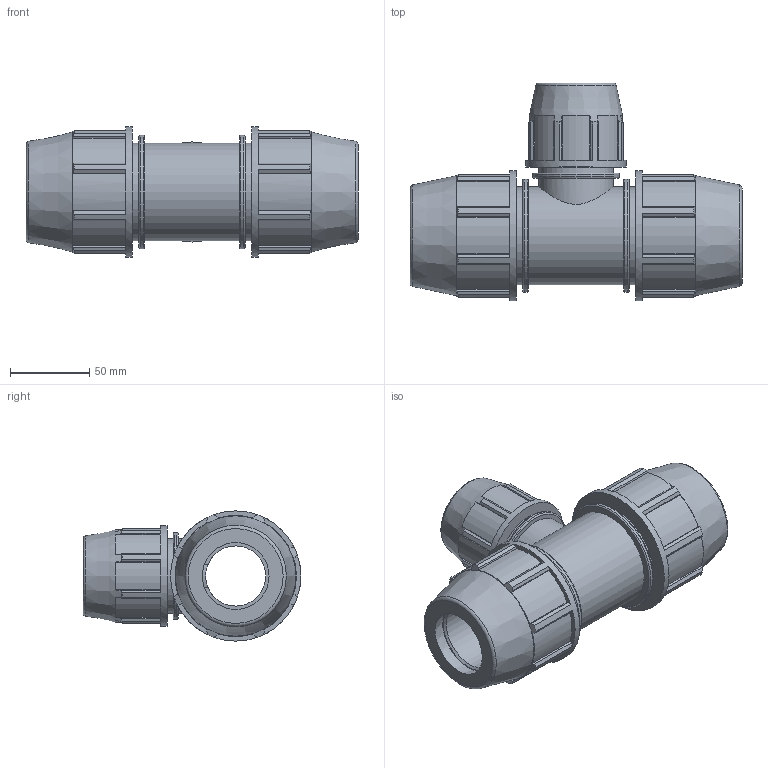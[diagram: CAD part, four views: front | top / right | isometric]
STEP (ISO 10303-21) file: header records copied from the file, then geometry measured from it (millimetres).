
FILE_DESCRIPTION(/* description */ ('PLASSON REDUCING TEE 1 1/4'''' - 1'''' - 1 1/4'''''),/* implementation_level */ '2;1');
FILE_NAME(/* name */ 'C:\Dropbox\KIMPROJECTS-Inventor 2019\99-16-3568-Processing Inch\ASTM Compression 2021\0734M0\0734M0013010.ipt.stp',/* time_stamp */ '2021-08-26T12:33:55+03:00',/* author */ ('Кирилл'),/* organization */ (''),/* preprocessor_version */ 'ST-DEVELOPER v17.2',/* originating_system */ 'Autodesk Inventor 2019',/* authorisation */ '');
FILE_SCHEMA (('AUTOMOTIVE_DESIGN { 1 0 10303 214 3 1 1 }'));
Length unit declared in the file: inch
Products named in the file (1): 0734M0013010
Bounding box: 209.04 x 137.03 x 82.04 mm (x, y, z)
Volume: 629229.8 mm3; surface area: 112169.6 mm2
Topology: 1 solids, 1 shells, 208 faces, 617 edges, 424 vertices
Faces by surface type: plane 138, cylinder 42, cone 19, torus 9
Full cylindrical faces by diameter (mm): 29.97 x1, 33.3 x1, 37.89 x1, 42.1 x2, 47.244 x2, 54.803 x1, 61.531 x3, 62.992 x1, 71.377 x2, 82.042 x2
Entity records: 7455 total; most frequent: CARTESIAN_POINT 1509, ORIENTED_EDGE 1234, DIRECTION 1198, EDGE_CURVE 617, AXIS2_PLACEMENT_3D 431, VERTEX_POINT 424, LINE 336, VECTOR 336
